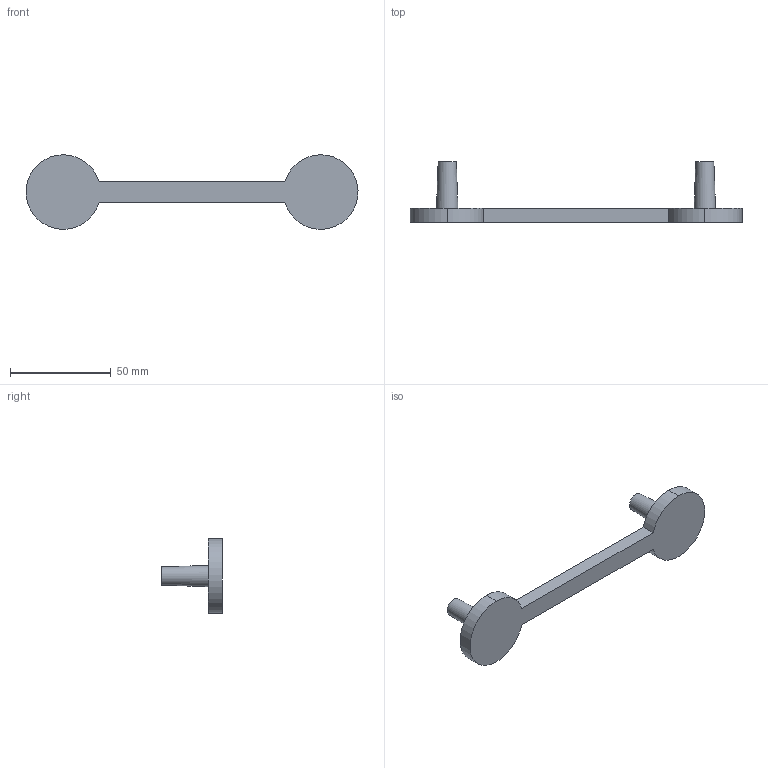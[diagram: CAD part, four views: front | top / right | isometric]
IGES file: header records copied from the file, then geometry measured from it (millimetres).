
Start section: Data from Parasolid IGES Translator 20.0.26, Copyright(c) 2006 Siemens P LM Software. All Rights Reserved.
Global section: file name: 9266417.igs; native system: By Siemens PLM Incorporated; preprocessor: XPlus GENERIC/IGES 20.0.26; author: Noname; organization: Noname; date: 20200630.115612; units: millimetre
Bounding box: 164.98 x 30 x 36.96 mm (x, y, z)
Surface area: 10478 mm2 (no closed solid volume)
Topology: 0 solids, 0 shells, 16 faces, 60 edges, 54 vertices
Faces by surface type: revolution 8, extrusion 8
